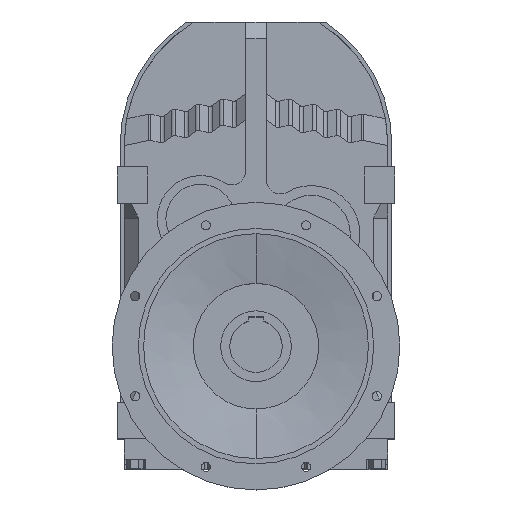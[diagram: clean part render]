
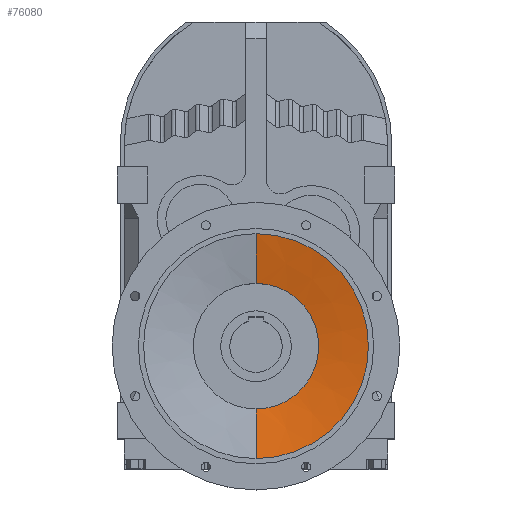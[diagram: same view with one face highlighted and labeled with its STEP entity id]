
A CAD part, top view. The second image highlights one B-rep face of the part: STEP entity #76080.
In plain terms, the highlighted conical face has half-angle 78.98 degrees and reference radius 215 mm.
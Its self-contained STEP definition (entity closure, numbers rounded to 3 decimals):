
#75726 = CYLINDRICAL_SURFACE('',#75727,215.);
#75727 = AXIS2_PLACEMENT_3D('',#75728,#75729,#75730);
#75728 = CARTESIAN_POINT('',(0.,-382.6,0.));
#75729 = DIRECTION('',(0.,0.,-1.));
#75730 = DIRECTION('',(0.,1.,0.));
#75874 = VERTEX_POINT('',#75875);
#75875 = CARTESIAN_POINT('',(0.,-597.6,414.));
#75894 = EDGE_CURVE('',#75895,#75874,#75897,.T.);
#75895 = VERTEX_POINT('',#75896);
#75896 = CARTESIAN_POINT('',(0.,-167.6,414.));
#75897 = SURFACE_CURVE('',#75898,(#75903,#75909),.PCURVE_S1.);
#75898 = CIRCLE('',#75899,215.);
#75899 = AXIS2_PLACEMENT_3D('',#75900,#75901,#75902);
#75900 = CARTESIAN_POINT('',(0.,-382.6,414.));
#75901 = DIRECTION('',(0.,0.,-1.));
#75902 = DIRECTION('',(0.,1.,0.));
#75903 = PCURVE('',#75726,#75904);
#75904 = DEFINITIONAL_REPRESENTATION('',(#75905),#75908);
#75905 = B_SPLINE_CURVE_WITH_KNOTS('',1,(#75906,#75907),.UNSPECIFIED.,
  .F.,.F.,(2,2),(0.,3.142),.PIECEWISE_BEZIER_KNOTS.);
#75906 = CARTESIAN_POINT('',(0.,-414.));
#75907 = CARTESIAN_POINT('',(3.142,-414.));
#75908 = ( GEOMETRIC_REPRESENTATION_CONTEXT(2) 
PARAMETRIC_REPRESENTATION_CONTEXT() REPRESENTATION_CONTEXT('2D SPACE',''
  ) );
#75909 = PCURVE('',#75910,#75915);
#75910 = CONICAL_SURFACE('',#75911,215.,1.378);
#75911 = AXIS2_PLACEMENT_3D('',#75912,#75913,#75914);
#75912 = CARTESIAN_POINT('',(0.,-382.6,414.));
#75913 = DIRECTION('',(0.,0.,1.));
#75914 = DIRECTION('',(0.,-1.,0.));
#75915 = DEFINITIONAL_REPRESENTATION('',(#75916),#75942);
#75916 = B_SPLINE_CURVE_WITH_KNOTS('',3,(#75917,#75918,#75919,#75920,
    #75921,#75922,#75923,#75924,#75925,#75926,#75927,#75928,#75929,
    #75930,#75931,#75932,#75933,#75934,#75935,#75936,#75937,#75938,
    #75939,#75940,#75941),.UNSPECIFIED.,.F.,.F.,(4,1,1,1,1,1,1,1,1,1,1,1
    ,1,1,1,1,1,1,1,1,1,1,4),(0.,0.143,0.286,
    0.428,0.571,0.714,0.857,
    1.,1.142,1.285,1.428,
    1.571,1.714,1.856,1.999,
    2.142,2.285,2.428,2.57,
    2.713,2.856,2.999,3.142),
  .QUASI_UNIFORM_KNOTS.);
#75917 = CARTESIAN_POINT('',(3.142,0.));
#75918 = CARTESIAN_POINT('',(3.094,0.));
#75919 = CARTESIAN_POINT('',(2.999,0.));
#75920 = CARTESIAN_POINT('',(2.856,0.));
#75921 = CARTESIAN_POINT('',(2.713,0.));
#75922 = CARTESIAN_POINT('',(2.57,0.));
#75923 = CARTESIAN_POINT('',(2.428,0.));
#75924 = CARTESIAN_POINT('',(2.285,0.));
#75925 = CARTESIAN_POINT('',(2.142,0.));
#75926 = CARTESIAN_POINT('',(1.999,0.));
#75927 = CARTESIAN_POINT('',(1.856,0.));
#75928 = CARTESIAN_POINT('',(1.714,0.));
#75929 = CARTESIAN_POINT('',(1.571,0.));
#75930 = CARTESIAN_POINT('',(1.428,0.));
#75931 = CARTESIAN_POINT('',(1.285,0.));
#75932 = CARTESIAN_POINT('',(1.142,0.));
#75933 = CARTESIAN_POINT('',(1.,0.));
#75934 = CARTESIAN_POINT('',(0.857,0.));
#75935 = CARTESIAN_POINT('',(0.714,0.));
#75936 = CARTESIAN_POINT('',(0.571,0.));
#75937 = CARTESIAN_POINT('',(0.428,0.));
#75938 = CARTESIAN_POINT('',(0.286,0.));
#75939 = CARTESIAN_POINT('',(0.143,0.));
#75940 = CARTESIAN_POINT('',(0.048,0.));
#75941 = CARTESIAN_POINT('',(0.,0.));
#75942 = ( GEOMETRIC_REPRESENTATION_CONTEXT(2) 
PARAMETRIC_REPRESENTATION_CONTEXT() REPRESENTATION_CONTEXT('2D SPACE',''
  ) );
#75983 = CONICAL_SURFACE('',#75984,215.,1.378);
#75984 = AXIS2_PLACEMENT_3D('',#75985,#75986,#75987);
#75985 = CARTESIAN_POINT('',(0.,-382.6,414.));
#75986 = DIRECTION('',(0.,0.,1.));
#75987 = DIRECTION('',(0.,-1.,0.));
#76044 = CYLINDRICAL_SURFACE('',#76045,120.);
#76045 = AXIS2_PLACEMENT_3D('',#76046,#76047,#76048);
#76046 = CARTESIAN_POINT('',(0.,-382.6,0.));
#76047 = DIRECTION('',(0.,0.,-1.));
#76048 = DIRECTION('',(0.,1.,0.));
#76080 = ADVANCED_FACE('',(#76081),#75910,.F.);
#76081 = FACE_BOUND('',#76082,.F.);
#76082 = EDGE_LOOP('',(#76083,#76104,#76105,#76126));
#76083 = ORIENTED_EDGE('',*,*,#76084,.T.);
#76084 = EDGE_CURVE('',#76085,#75895,#76087,.T.);
#76085 = VERTEX_POINT('',#76086);
#76086 = CARTESIAN_POINT('',(0.,-262.6,395.5));
#76087 = SURFACE_CURVE('',#76088,(#76092,#76098),.PCURVE_S1.);
#76088 = LINE('',#76089,#76090);
#76089 = CARTESIAN_POINT('',(0.,-167.6,414.));
#76090 = VECTOR('',#76091,1.);
#76091 = DIRECTION('',(0.,0.982,0.191)
  );
#76092 = PCURVE('',#75910,#76093);
#76093 = DEFINITIONAL_REPRESENTATION('',(#76094),#76097);
#76094 = B_SPLINE_CURVE_WITH_KNOTS('',1,(#76095,#76096),.UNSPECIFIED.,
  .F.,.F.,(2,2),(-96.785,0.),
  .PIECEWISE_BEZIER_KNOTS.);
#76095 = CARTESIAN_POINT('',(3.142,-18.5));
#76096 = CARTESIAN_POINT('',(3.142,0.));
#76097 = ( GEOMETRIC_REPRESENTATION_CONTEXT(2) 
PARAMETRIC_REPRESENTATION_CONTEXT() REPRESENTATION_CONTEXT('2D SPACE',''
  ) );
#76098 = PCURVE('',#75983,#76099);
#76099 = DEFINITIONAL_REPRESENTATION('',(#76100),#76103);
#76100 = B_SPLINE_CURVE_WITH_KNOTS('',1,(#76101,#76102),.UNSPECIFIED.,
  .F.,.F.,(2,2),(-96.785,0.),
  .PIECEWISE_BEZIER_KNOTS.);
#76101 = CARTESIAN_POINT('',(3.142,-18.5));
#76102 = CARTESIAN_POINT('',(3.142,0.));
#76103 = ( GEOMETRIC_REPRESENTATION_CONTEXT(2) 
PARAMETRIC_REPRESENTATION_CONTEXT() REPRESENTATION_CONTEXT('2D SPACE',''
  ) );
#76104 = ORIENTED_EDGE('',*,*,#75894,.T.);
#76105 = ORIENTED_EDGE('',*,*,#76106,.F.);
#76106 = EDGE_CURVE('',#76107,#75874,#76109,.T.);
#76107 = VERTEX_POINT('',#76108);
#76108 = CARTESIAN_POINT('',(0.,-502.6,395.5));
#76109 = SURFACE_CURVE('',#76110,(#76114,#76120),.PCURVE_S1.);
#76110 = LINE('',#76111,#76112);
#76111 = CARTESIAN_POINT('',(0.,-597.6,414.));
#76112 = VECTOR('',#76113,1.);
#76113 = DIRECTION('',(0.,-0.982,0.191));
#76114 = PCURVE('',#75910,#76115);
#76115 = DEFINITIONAL_REPRESENTATION('',(#76116),#76119);
#76116 = B_SPLINE_CURVE_WITH_KNOTS('',1,(#76117,#76118),.UNSPECIFIED.,
  .F.,.F.,(2,2),(-96.785,0.),
  .PIECEWISE_BEZIER_KNOTS.);
#76117 = CARTESIAN_POINT('',(0.,-18.5));
#76118 = CARTESIAN_POINT('',(0.,0.));
#76119 = ( GEOMETRIC_REPRESENTATION_CONTEXT(2) 
PARAMETRIC_REPRESENTATION_CONTEXT() REPRESENTATION_CONTEXT('2D SPACE',''
  ) );
#76120 = PCURVE('',#75983,#76121);
#76121 = DEFINITIONAL_REPRESENTATION('',(#76122),#76125);
#76122 = B_SPLINE_CURVE_WITH_KNOTS('',1,(#76123,#76124),.UNSPECIFIED.,
  .F.,.F.,(2,2),(-96.785,0.),
  .PIECEWISE_BEZIER_KNOTS.);
#76123 = CARTESIAN_POINT('',(6.283,-18.5));
#76124 = CARTESIAN_POINT('',(6.283,0.));
#76125 = ( GEOMETRIC_REPRESENTATION_CONTEXT(2) 
PARAMETRIC_REPRESENTATION_CONTEXT() REPRESENTATION_CONTEXT('2D SPACE',''
  ) );
#76126 = ORIENTED_EDGE('',*,*,#76127,.F.);
#76127 = EDGE_CURVE('',#76085,#76107,#76128,.T.);
#76128 = SURFACE_CURVE('',#76129,(#76134,#76163),.PCURVE_S1.);
#76129 = CIRCLE('',#76130,120.);
#76130 = AXIS2_PLACEMENT_3D('',#76131,#76132,#76133);
#76131 = CARTESIAN_POINT('',(0.,-382.6,395.5));
#76132 = DIRECTION('',(0.,0.,-1.));
#76133 = DIRECTION('',(0.,1.,0.));
#76134 = PCURVE('',#75910,#76135);
#76135 = DEFINITIONAL_REPRESENTATION('',(#76136),#76162);
#76136 = B_SPLINE_CURVE_WITH_KNOTS('',3,(#76137,#76138,#76139,#76140,
    #76141,#76142,#76143,#76144,#76145,#76146,#76147,#76148,#76149,
    #76150,#76151,#76152,#76153,#76154,#76155,#76156,#76157,#76158,
    #76159,#76160,#76161),.UNSPECIFIED.,.F.,.F.,(4,1,1,1,1,1,1,1,1,1,1,1
    ,1,1,1,1,1,1,1,1,1,1,4),(0.,0.143,0.286,
    0.428,0.571,0.714,0.857,
    1.,1.142,1.285,1.428,
    1.571,1.714,1.856,1.999,
    2.142,2.285,2.428,2.57,
    2.713,2.856,2.999,3.142),
  .QUASI_UNIFORM_KNOTS.);
#76137 = CARTESIAN_POINT('',(3.142,-18.5));
#76138 = CARTESIAN_POINT('',(3.094,-18.5));
#76139 = CARTESIAN_POINT('',(2.999,-18.5));
#76140 = CARTESIAN_POINT('',(2.856,-18.5));
#76141 = CARTESIAN_POINT('',(2.713,-18.5));
#76142 = CARTESIAN_POINT('',(2.57,-18.5));
#76143 = CARTESIAN_POINT('',(2.428,-18.5));
#76144 = CARTESIAN_POINT('',(2.285,-18.5));
#76145 = CARTESIAN_POINT('',(2.142,-18.5));
#76146 = CARTESIAN_POINT('',(1.999,-18.5));
#76147 = CARTESIAN_POINT('',(1.856,-18.5));
#76148 = CARTESIAN_POINT('',(1.714,-18.5));
#76149 = CARTESIAN_POINT('',(1.571,-18.5));
#76150 = CARTESIAN_POINT('',(1.428,-18.5));
#76151 = CARTESIAN_POINT('',(1.285,-18.5));
#76152 = CARTESIAN_POINT('',(1.142,-18.5));
#76153 = CARTESIAN_POINT('',(1.,-18.5));
#76154 = CARTESIAN_POINT('',(0.857,-18.5));
#76155 = CARTESIAN_POINT('',(0.714,-18.5));
#76156 = CARTESIAN_POINT('',(0.571,-18.5));
#76157 = CARTESIAN_POINT('',(0.428,-18.5));
#76158 = CARTESIAN_POINT('',(0.286,-18.5));
#76159 = CARTESIAN_POINT('',(0.143,-18.5));
#76160 = CARTESIAN_POINT('',(0.048,-18.5));
#76161 = CARTESIAN_POINT('',(0.,-18.5));
#76162 = ( GEOMETRIC_REPRESENTATION_CONTEXT(2) 
PARAMETRIC_REPRESENTATION_CONTEXT() REPRESENTATION_CONTEXT('2D SPACE',''
  ) );
#76163 = PCURVE('',#76044,#76164);
#76164 = DEFINITIONAL_REPRESENTATION('',(#76165),#76168);
#76165 = B_SPLINE_CURVE_WITH_KNOTS('',1,(#76166,#76167),.UNSPECIFIED.,
  .F.,.F.,(2,2),(0.,3.142),.PIECEWISE_BEZIER_KNOTS.);
#76166 = CARTESIAN_POINT('',(0.,-395.5));
#76167 = CARTESIAN_POINT('',(3.142,-395.5));
#76168 = ( GEOMETRIC_REPRESENTATION_CONTEXT(2) 
PARAMETRIC_REPRESENTATION_CONTEXT() REPRESENTATION_CONTEXT('2D SPACE',''
  ) );
